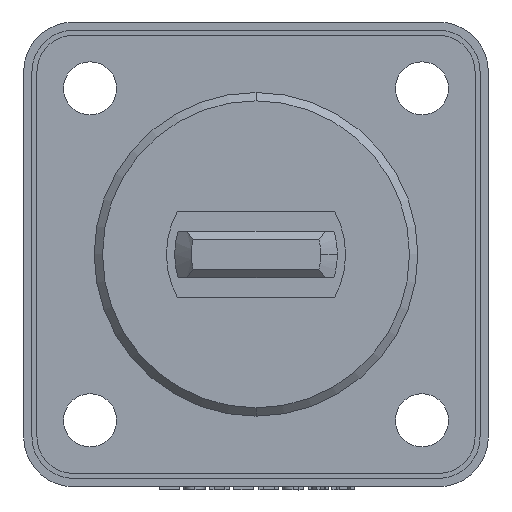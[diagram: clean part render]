
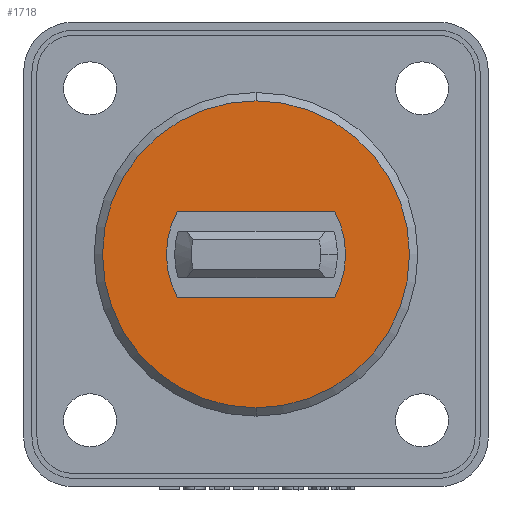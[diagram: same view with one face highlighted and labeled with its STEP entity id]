
A CAD part, front view. The second image highlights one B-rep face of the part: STEP entity #1718.
In plain terms, the highlighted planar face has unit normal (0, -1, 0).
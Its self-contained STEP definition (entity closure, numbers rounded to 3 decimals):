
#197 = VERTEX_POINT ( 'NONE', #5784 ) ;
#1043 = EDGE_LOOP ( 'NONE', ( #12486, #12232, #15222, #13773 ) ) ;
#1485 = CARTESIAN_POINT ( 'NONE',  ( 0., -16.939, -9.25 ) ) ;
#1718 = ADVANCED_FACE ( 'NONE', ( #13014, #9475 ), #11830, .F. ) ;
#2049 = AXIS2_PLACEMENT_3D ( 'NONE', #5072, #3791, #10404 ) ;
#2191 = AXIS2_PLACEMENT_3D ( 'NONE', #16100, #6820, #8115 ) ;
#2587 = VECTOR ( 'NONE', #14654, 1000. ) ;
#2624 = AXIS2_PLACEMENT_3D ( 'NONE', #10580, #12848, #13837 ) ;
#2850 = AXIS2_PLACEMENT_3D ( 'NONE', #9920, #16603, #6076 ) ;
#3060 = VERTEX_POINT ( 'NONE', #3206 ) ;
#3206 = CARTESIAN_POINT ( 'NONE',  ( -4.733, -16.939, 2.6 ) ) ;
#3311 = VERTEX_POINT ( 'NONE', #6532 ) ;
#3791 = DIRECTION ( 'NONE',  ( 0., -1., 0. ) ) ;
#4098 = ORIENTED_EDGE ( 'NONE', *, *, #10637, .T. ) ;
#4331 = DIRECTION ( 'NONE',  ( -1., 0., 0. ) ) ;
#5016 = EDGE_CURVE ( 'NONE', #3060, #12310, #16612, .T. ) ;
#5049 = EDGE_CURVE ( 'NONE', #197, #3311, #9167, .T. ) ;
#5072 = CARTESIAN_POINT ( 'NONE',  ( 0., -16.939, 0. ) ) ;
#5674 = VECTOR ( 'NONE', #4331, 1000. ) ;
#5784 = CARTESIAN_POINT ( 'NONE',  ( 4.733, -16.939, -2.6 ) ) ;
#5858 = CIRCLE ( 'NONE', #2049, 9.25 ) ;
#6076 = DIRECTION ( 'NONE',  ( 0., 0., -1. ) ) ;
#6361 = EDGE_LOOP ( 'NONE', ( #15704, #4098 ) ) ;
#6512 = AXIS2_PLACEMENT_3D ( 'NONE', #7811, #6525, #12017 ) ;
#6525 = DIRECTION ( 'NONE',  ( 0., -1., 0. ) ) ;
#6532 = CARTESIAN_POINT ( 'NONE',  ( -4.733, -16.939, -2.6 ) ) ;
#6820 = DIRECTION ( 'NONE',  ( 0., 1., 0. ) ) ;
#7575 = CARTESIAN_POINT ( 'NONE',  ( 4.733, -16.939, 2.6 ) ) ;
#7811 = CARTESIAN_POINT ( 'NONE',  ( 0., -16.939, 0. ) ) ;
#8115 = DIRECTION ( 'NONE',  ( 0., 0., -1. ) ) ;
#9071 = CIRCLE ( 'NONE', #2191, 5.4 ) ;
#9167 = LINE ( 'NONE', #11882, #5674 ) ;
#9437 = EDGE_CURVE ( 'NONE', #16890, #12171, #5858, .T. ) ;
#9475 = FACE_BOUND ( 'NONE', #1043, .T. ) ;
#9920 = CARTESIAN_POINT ( 'NONE',  ( 0., -16.939, 0. ) ) ;
#10081 = CIRCLE ( 'NONE', #6512, 9.25 ) ;
#10404 = DIRECTION ( 'NONE',  ( 0., 0., 1. ) ) ;
#10580 = CARTESIAN_POINT ( 'NONE',  ( -4.85, -16.939, 0. ) ) ;
#10637 = EDGE_CURVE ( 'NONE', #12171, #16890, #10081, .T. ) ;
#11060 = EDGE_CURVE ( 'NONE', #3311, #3060, #14708, .T. ) ;
#11307 = EDGE_CURVE ( 'NONE', #12310, #197, #9071, .T. ) ;
#11830 = PLANE ( 'NONE',  #2624 ) ;
#11882 = CARTESIAN_POINT ( 'NONE',  ( -4.733, -16.939, -2.6 ) ) ;
#12017 = DIRECTION ( 'NONE',  ( 0., 0., 1. ) ) ;
#12171 = VERTEX_POINT ( 'NONE', #1485 ) ;
#12232 = ORIENTED_EDGE ( 'NONE', *, *, #5016, .T. ) ;
#12310 = VERTEX_POINT ( 'NONE', #7575 ) ;
#12486 = ORIENTED_EDGE ( 'NONE', *, *, #11060, .T. ) ;
#12848 = DIRECTION ( 'NONE',  ( 0., 1., 0. ) ) ;
#13014 = FACE_OUTER_BOUND ( 'NONE', #6361, .T. ) ;
#13773 = ORIENTED_EDGE ( 'NONE', *, *, #5049, .T. ) ;
#13837 = DIRECTION ( 'NONE',  ( 0., 0., -1. ) ) ;
#14654 = DIRECTION ( 'NONE',  ( 1., 0., 0. ) ) ;
#14708 = CIRCLE ( 'NONE', #2850, 5.4 ) ;
#15222 = ORIENTED_EDGE ( 'NONE', *, *, #11307, .T. ) ;
#15704 = ORIENTED_EDGE ( 'NONE', *, *, #9437, .T. ) ;
#16100 = CARTESIAN_POINT ( 'NONE',  ( 0., -16.939, 0. ) ) ;
#16169 = CARTESIAN_POINT ( 'NONE',  ( -4.733, -16.939, 2.6 ) ) ;
#16544 = CARTESIAN_POINT ( 'NONE',  ( 0., -16.939, 9.25 ) ) ;
#16603 = DIRECTION ( 'NONE',  ( 0., 1., 0. ) ) ;
#16612 = LINE ( 'NONE', #16169, #2587 ) ;
#16890 = VERTEX_POINT ( 'NONE', #16544 ) ;
